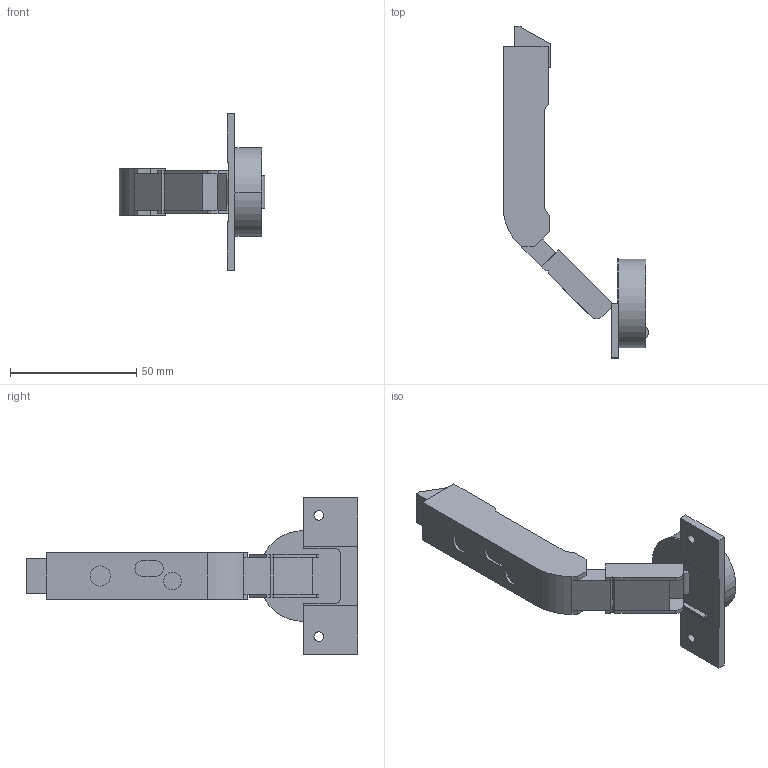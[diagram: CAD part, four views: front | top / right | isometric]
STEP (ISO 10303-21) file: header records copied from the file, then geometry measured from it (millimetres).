
FILE_DESCRIPTION (( 'STEP AP203' ), '1' );
FILE_NAME ('Scharnier T Click-on PCC S_BB.step', '2014-03-25T12:08:34', ( '' ), ( '' ), 'SwSTEP 2.0', 'SolidWorks 2013', '' );
FILE_SCHEMA (( 'CONFIG_CONTROL_DESIGN' ));
Length unit declared in the file: millimetre
Products named in the file (1): Scharnier T Click-on PCC S_BB
Bounding box: 57.59 x 131.39 x 62 mm (x, y, z)
Volume: 43867.5 mm3; surface area: 14136 mm2
Topology: 1 solids, 1 shells, 94 faces, 242 edges, 156 vertices
Faces by surface type: plane 72, cylinder 22
Entity records: 2907 total; most frequent: CARTESIAN_POINT 493, ORIENTED_EDGE 484, DIRECTION 476, EDGE_CURVE 242, VECTOR 198, LINE 198, VERTEX_POINT 156, AXIS2_PLACEMENT_3D 139
